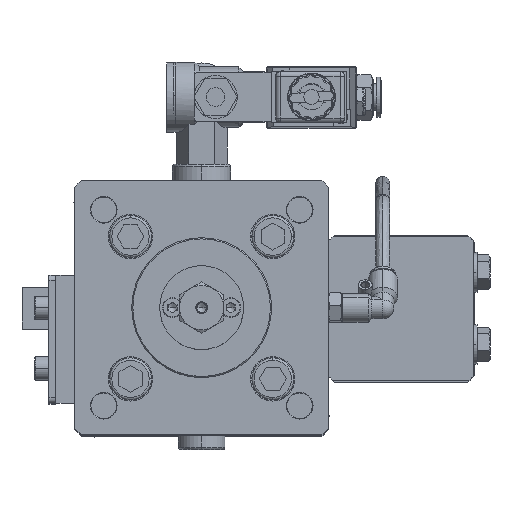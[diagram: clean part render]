
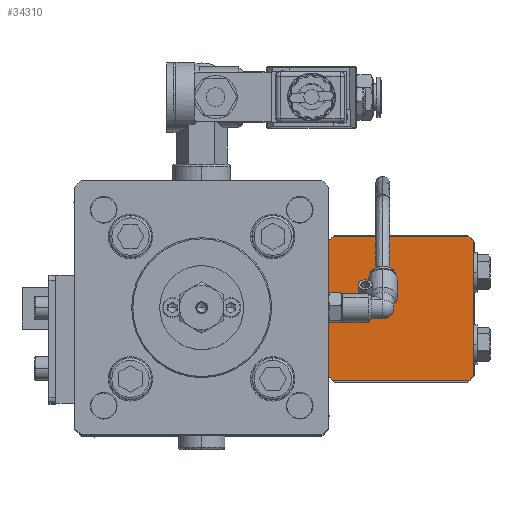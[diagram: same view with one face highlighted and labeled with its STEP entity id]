
A CAD part, top view. The second image highlights one B-rep face of the part: STEP entity #34310.
In plain terms, the highlighted planar face has unit normal (0, 0, 1) as drawn and (0, -1, 0) by its records, which use the part's own axes.
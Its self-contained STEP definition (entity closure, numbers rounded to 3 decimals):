
#5718 = DIRECTION ( 'NONE',  ( 0., -1., 0. ) ) ;
#8670 = ORIENTED_EDGE ( 'NONE', *, *, #52875, .T. ) ;
#8891 = VERTEX_POINT ( 'NONE', #91233 ) ;
#10486 = VERTEX_POINT ( 'NONE', #67215 ) ;
#12867 = CIRCLE ( 'NONE', #97240, 42.5 ) ;
#13245 = DIRECTION ( 'NONE',  ( 0., 1., 0. ) ) ;
#13712 = VERTEX_POINT ( 'NONE', #63399 ) ;
#18535 = EDGE_CURVE ( 'NONE', #44111, #13712, #87965, .T. ) ;
#22678 = ORIENTED_EDGE ( 'NONE', *, *, #64909, .F. ) ;
#23164 = DIRECTION ( 'NONE',  ( -1., 0., 0. ) ) ;
#23641 = ORIENTED_EDGE ( 'NONE', *, *, #86433, .T. ) ;
#27899 = VECTOR ( 'NONE', #50027, 1000. ) ;
#29314 = VERTEX_POINT ( 'NONE', #32684 ) ;
#32684 = CARTESIAN_POINT ( 'NONE',  ( 31., 0., 29.073 ) ) ;
#33421 = DIRECTION ( 'NONE',  ( 0., 0., -1. ) ) ;
#34310 = ADVANCED_FACE ( 'NONE', ( #51258 ), #37909, .F. ) ;
#35182 = ORIENTED_EDGE ( 'NONE', *, *, #61472, .F. ) ;
#37355 = CARTESIAN_POINT ( 'NONE',  ( 31., 0., -29.073 ) ) ;
#37423 = CARTESIAN_POINT ( 'NONE',  ( 29.073, 0., -31. ) ) ;
#37909 = PLANE ( 'NONE',  #102760 ) ;
#38190 = DIRECTION ( 'NONE',  ( 0., -1., 0. ) ) ;
#39358 = AXIS2_PLACEMENT_3D ( 'NONE', #41719, #99897, #50030 ) ;
#39372 = VECTOR ( 'NONE', #33421, 1000. ) ;
#41719 = CARTESIAN_POINT ( 'NONE',  ( 0., 0., 0. ) ) ;
#43087 = ORIENTED_EDGE ( 'NONE', *, *, #86722, .F. ) ;
#44111 = VERTEX_POINT ( 'NONE', #37423 ) ;
#44820 = LINE ( 'NONE', #99893, #27899 ) ;
#46263 = ORIENTED_EDGE ( 'NONE', *, *, #95925, .T. ) ;
#46269 = CARTESIAN_POINT ( 'NONE',  ( 0., 0., 0. ) ) ;
#46966 = CARTESIAN_POINT ( 'NONE',  ( 0., 0., 0. ) ) ;
#50027 = DIRECTION ( 'NONE',  ( 1., 0., 0. ) ) ;
#50030 = DIRECTION ( 'NONE',  ( 0., 0., 1. ) ) ;
#51255 = VERTEX_POINT ( 'NONE', #37355 ) ;
#51258 = FACE_OUTER_BOUND ( 'NONE', #102746, .T. ) ;
#51939 = VECTOR ( 'NONE', #52294, 1000. ) ;
#52294 = DIRECTION ( 'NONE',  ( 0., 0., 1. ) ) ;
#52875 = EDGE_CURVE ( 'NONE', #8891, #13712, #12867, .T. ) ;
#55292 = DIRECTION ( 'NONE',  ( 0., 0., 1. ) ) ;
#55469 = CARTESIAN_POINT ( 'NONE',  ( 0., 0., 0. ) ) ;
#61472 = EDGE_CURVE ( 'NONE', #8891, #10486, #96236, .T. ) ;
#62381 = CIRCLE ( 'NONE', #39358, 42.5 ) ;
#63399 = CARTESIAN_POINT ( 'NONE',  ( -29.073, 0., -31. ) ) ;
#63875 = DIRECTION ( 'NONE',  ( 0., 0., 1. ) ) ;
#64111 = LINE ( 'NONE', #99980, #39372 ) ;
#64909 = EDGE_CURVE ( 'NONE', #83674, #76374, #44820, .T. ) ;
#65836 = VECTOR ( 'NONE', #23164, 1000. ) ;
#66632 = AXIS2_PLACEMENT_3D ( 'NONE', #46966, #105134, #55292 ) ;
#67215 = CARTESIAN_POINT ( 'NONE',  ( -31., 0., 29.073 ) ) ;
#71340 = DIRECTION ( 'NONE',  ( 0., 0., 1. ) ) ;
#76374 = VERTEX_POINT ( 'NONE', #87144 ) ;
#79264 = ORIENTED_EDGE ( 'NONE', *, *, #104704, .T. ) ;
#79354 = ORIENTED_EDGE ( 'NONE', *, *, #18535, .F. ) ;
#79754 = CIRCLE ( 'NONE', #102750, 42.5 ) ;
#81346 = CARTESIAN_POINT ( 'NONE',  ( -31., 0., -31. ) ) ;
#83674 = VERTEX_POINT ( 'NONE', #105772 ) ;
#86433 = EDGE_CURVE ( 'NONE', #29314, #76374, #79754, .T. ) ;
#86722 = EDGE_CURVE ( 'NONE', #29314, #51255, #64111, .T. ) ;
#87144 = CARTESIAN_POINT ( 'NONE',  ( 29.073, 0., 31. ) ) ;
#87965 = LINE ( 'NONE', #81346, #65836 ) ;
#88026 = CARTESIAN_POINT ( 'NONE',  ( 0., 0., 0. ) ) ;
#91233 = CARTESIAN_POINT ( 'NONE',  ( -31., 0., -29.073 ) ) ;
#95925 = EDGE_CURVE ( 'NONE', #83674, #10486, #97472, .T. ) ;
#96236 = LINE ( 'NONE', #101807, #51939 ) ;
#96379 = DIRECTION ( 'NONE',  ( 0., 0., 1. ) ) ;
#97240 = AXIS2_PLACEMENT_3D ( 'NONE', #55469, #5718, #63875 ) ;
#97472 = CIRCLE ( 'NONE', #66632, 42.5 ) ;
#99893 = CARTESIAN_POINT ( 'NONE',  ( -31., 0., 31. ) ) ;
#99897 = DIRECTION ( 'NONE',  ( 0., -1., 0. ) ) ;
#99980 = CARTESIAN_POINT ( 'NONE',  ( 31., 0., -31. ) ) ;
#101807 = CARTESIAN_POINT ( 'NONE',  ( -31., 0., -31. ) ) ;
#102746 = EDGE_LOOP ( 'NONE', ( #46263, #35182, #8670, #79354, #79264, #43087, #23641, #22678 ) ) ;
#102750 = AXIS2_PLACEMENT_3D ( 'NONE', #88026, #38190, #96379 ) ;
#102760 = AXIS2_PLACEMENT_3D ( 'NONE', #46269, #13245, #71340 ) ;
#104704 = EDGE_CURVE ( 'NONE', #44111, #51255, #62381, .T. ) ;
#105134 = DIRECTION ( 'NONE',  ( 0., -1., 0. ) ) ;
#105772 = CARTESIAN_POINT ( 'NONE',  ( -29.073, 0., 31. ) ) ;
